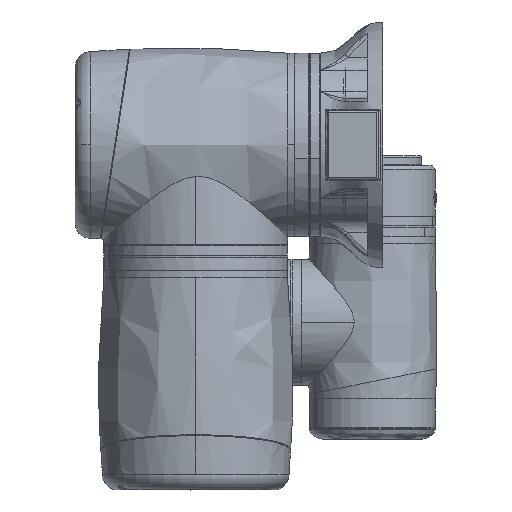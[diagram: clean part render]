
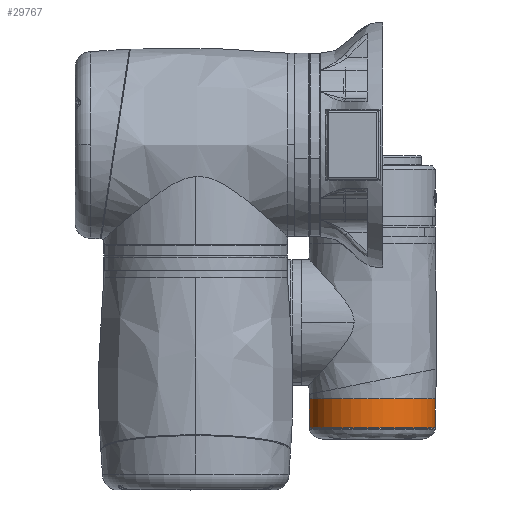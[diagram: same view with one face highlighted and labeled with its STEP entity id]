
A CAD part, left-side view. The second image highlights one B-rep face of the part: STEP entity #29767.
In plain terms, the highlighted cylindrical face has radius 40.5 mm (diameter 81 mm), a partial arc.
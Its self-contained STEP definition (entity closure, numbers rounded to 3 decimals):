
#1064 = DIRECTION ( 'NONE',  ( 0., -1., 0. ) ) ;
#3639 = AXIS2_PLACEMENT_3D ( 'NONE', #101283, #1064, #89396 ) ;
#4426 = EDGE_CURVE ( 'NONE', #118145, #120077, #76776, .T. ) ;
#11207 = CARTESIAN_POINT ( 'NONE',  ( -40.5, 135.5, 0. ) ) ;
#13311 = LINE ( 'NONE', #104891, #90698 ) ;
#15764 = VERTEX_POINT ( 'NONE', #109851 ) ;
#19866 = EDGE_LOOP ( 'NONE', ( #28010, #117104, #71610, #83372, #60346 ) ) ;
#24708 = CARTESIAN_POINT ( 'NONE',  ( 0., 135.5, 0. ) ) ;
#26321 = CARTESIAN_POINT ( 'NONE',  ( 40.5, 135.5, 0. ) ) ;
#26669 = CYLINDRICAL_SURFACE ( 'NONE', #107814, 40.5 ) ;
#28010 = ORIENTED_EDGE ( 'NONE', *, *, #117926, .F. ) ;
#29767 = ADVANCED_FACE ( 'NONE', ( #116914 ), #26669, .T. ) ;
#34678 = DIRECTION ( 'NONE',  ( 0., -1., 0. ) ) ;
#35621 = DIRECTION ( 'NONE',  ( 0., -1., 0. ) ) ;
#39165 = CIRCLE ( 'NONE', #130260, 40.5 ) ;
#47222 = CARTESIAN_POINT ( 'NONE',  ( 0., 8.5, 0. ) ) ;
#50379 = AXIS2_PLACEMENT_3D ( 'NONE', #24708, #34678, #63895 ) ;
#53270 = VERTEX_POINT ( 'NONE', #26321 ) ;
#53762 = DIRECTION ( 'NONE',  ( 0., -1., 0. ) ) ;
#56823 = CARTESIAN_POINT ( 'NONE',  ( -40.5, 8.5, 0. ) ) ;
#60346 = ORIENTED_EDGE ( 'NONE', *, *, #65749, .F. ) ;
#63895 = DIRECTION ( 'NONE',  ( 0., 0., 1. ) ) ;
#65749 = EDGE_CURVE ( 'NONE', #83915, #120077, #118087, .T. ) ;
#66499 = DIRECTION ( 'NONE',  ( -1., 0., 0. ) ) ;
#70665 = CARTESIAN_POINT ( 'NONE',  ( -40.5, 117., 0. ) ) ;
#71610 = ORIENTED_EDGE ( 'NONE', *, *, #100812, .T. ) ;
#76776 = LINE ( 'NONE', #56823, #102614 ) ;
#82315 = CARTESIAN_POINT ( 'NONE',  ( 0., 135.5, 0. ) ) ;
#83372 = ORIENTED_EDGE ( 'NONE', *, *, #4426, .T. ) ;
#83722 = CARTESIAN_POINT ( 'NONE',  ( 40.5, 117., 0. ) ) ;
#83915 = VERTEX_POINT ( 'NONE', #83722 ) ;
#89396 = DIRECTION ( 'NONE',  ( -1., 0., 0. ) ) ;
#90698 = VECTOR ( 'NONE', #53762, 1000. ) ;
#100812 = EDGE_CURVE ( 'NONE', #15764, #118145, #39165, .T. ) ;
#101283 = CARTESIAN_POINT ( 'NONE',  ( 0., 117., 0. ) ) ;
#102614 = VECTOR ( 'NONE', #35621, 1000. ) ;
#103374 = CIRCLE ( 'NONE', #50379, 40.5 ) ;
#103520 = DIRECTION ( 'NONE',  ( 0., 0., 1. ) ) ;
#104891 = CARTESIAN_POINT ( 'NONE',  ( 40.5, 8.5, 0. ) ) ;
#107814 = AXIS2_PLACEMENT_3D ( 'NONE', #47222, #119536, #66499 ) ;
#109851 = CARTESIAN_POINT ( 'NONE',  ( 0., 135.5, 40.5 ) ) ;
#116914 = FACE_OUTER_BOUND ( 'NONE', #19866, .T. ) ;
#117104 = ORIENTED_EDGE ( 'NONE', *, *, #117577, .T. ) ;
#117577 = EDGE_CURVE ( 'NONE', #53270, #15764, #103374, .T. ) ;
#117926 = EDGE_CURVE ( 'NONE', #53270, #83915, #13311, .T. ) ;
#118087 = CIRCLE ( 'NONE', #3639, 40.5 ) ;
#118145 = VERTEX_POINT ( 'NONE', #11207 ) ;
#119536 = DIRECTION ( 'NONE',  ( 0., -1., 0. ) ) ;
#120077 = VERTEX_POINT ( 'NONE', #70665 ) ;
#122755 = DIRECTION ( 'NONE',  ( 0., -1., 0. ) ) ;
#130260 = AXIS2_PLACEMENT_3D ( 'NONE', #82315, #122755, #103520 ) ;
